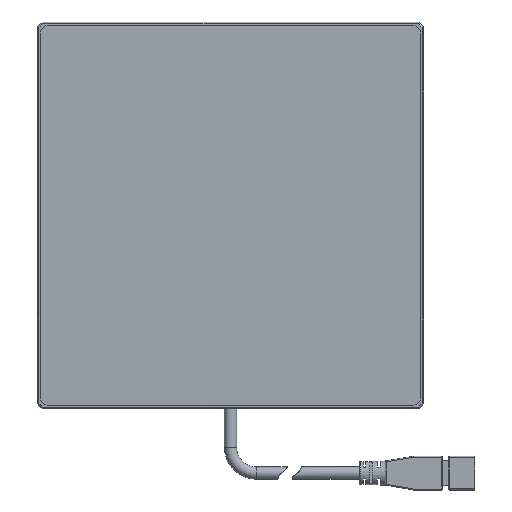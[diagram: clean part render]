
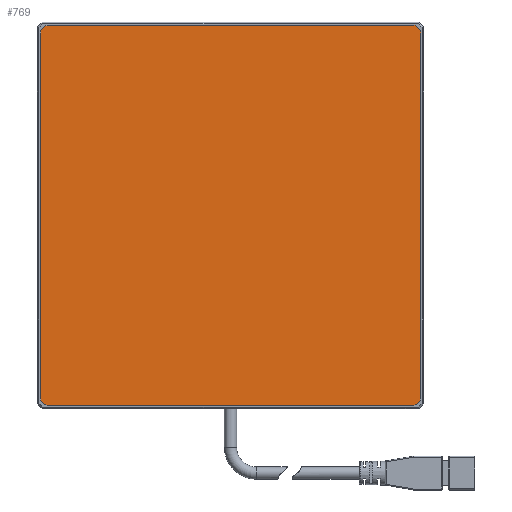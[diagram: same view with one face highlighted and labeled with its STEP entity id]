
A CAD part, front view. The second image highlights one B-rep face of the part: STEP entity #769.
In plain terms, the highlighted planar face has unit normal (0, -1, 0).
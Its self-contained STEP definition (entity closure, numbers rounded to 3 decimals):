
#65=CARTESIAN_POINT('',(56.5,0.5,56.5));
#66=DIRECTION('',(0.,-1.,0.));
#67=DIRECTION('',(1.,0.,0.));
#68=AXIS2_PLACEMENT_3D('',#65,#66,#67);
#70=DIRECTION('',(0.,0.,1.));
#71=VECTOR('',#70,113.);
#72=CARTESIAN_POINT('',(59.,0.5,-56.5));
#73=LINE('',#72,#71);
#74=CARTESIAN_POINT('',(56.5,0.5,-56.5));
#75=DIRECTION('',(0.,-1.,0.));
#76=DIRECTION('',(0.,0.,-1.));
#77=AXIS2_PLACEMENT_3D('',#74,#75,#76);
#79=DIRECTION('',(1.,0.,0.));
#80=VECTOR('',#79,113.);
#81=CARTESIAN_POINT('',(-56.5,0.5,-59.));
#82=LINE('',#81,#80);
#83=CARTESIAN_POINT('',(-56.5,0.5,-56.5));
#84=DIRECTION('',(0.,-1.,0.));
#85=DIRECTION('',(-1.,0.,0.));
#86=AXIS2_PLACEMENT_3D('',#83,#84,#85);
#88=DIRECTION('',(0.,0.,-1.));
#89=VECTOR('',#88,113.);
#90=CARTESIAN_POINT('',(-59.,0.5,56.5));
#91=LINE('',#90,#89);
#92=CARTESIAN_POINT('',(-56.5,0.5,56.5));
#93=DIRECTION('',(0.,-1.,0.));
#94=DIRECTION('',(0.,0.,1.));
#95=AXIS2_PLACEMENT_3D('',#92,#93,#94);
#97=DIRECTION('',(-1.,0.,0.));
#98=VECTOR('',#97,113.);
#99=CARTESIAN_POINT('',(56.5,0.5,59.));
#100=LINE('',#99,#98);
#645=CARTESIAN_POINT('',(59.,0.5,56.5));
#646=CARTESIAN_POINT('',(56.5,0.5,59.));
#647=VERTEX_POINT('',#645);
#648=VERTEX_POINT('',#646);
#653=CARTESIAN_POINT('',(56.5,0.5,-59.));
#654=CARTESIAN_POINT('',(59.,0.5,-56.5));
#655=VERTEX_POINT('',#653);
#656=VERTEX_POINT('',#654);
#661=CARTESIAN_POINT('',(-59.,0.5,-56.5));
#662=CARTESIAN_POINT('',(-56.5,0.5,-59.));
#663=VERTEX_POINT('',#661);
#664=VERTEX_POINT('',#662);
#669=CARTESIAN_POINT('',(-56.5,0.5,59.));
#670=CARTESIAN_POINT('',(-59.,0.5,56.5));
#671=VERTEX_POINT('',#669);
#672=VERTEX_POINT('',#670);
#748=CARTESIAN_POINT('',(0.,0.5,0.));
#749=DIRECTION('',(0.,-1.,0.));
#750=DIRECTION('',(0.,0.,-1.));
#751=AXIS2_PLACEMENT_3D('',#748,#749,#750);
#752=PLANE('',#751);
#754=ORIENTED_EDGE('',*,*,#753,.F.);
#756=ORIENTED_EDGE('',*,*,#755,.F.);
#757=ORIENTED_EDGE('',*,*,#739,.F.);
#758=ORIENTED_EDGE('',*,*,#729,.F.);
#760=ORIENTED_EDGE('',*,*,#759,.F.);
#762=ORIENTED_EDGE('',*,*,#761,.F.);
#764=ORIENTED_EDGE('',*,*,#763,.F.);
#766=ORIENTED_EDGE('',*,*,#765,.F.);
#767=EDGE_LOOP('',(#754,#756,#757,#758,#760,#762,#764,#766));
#768=FACE_OUTER_BOUND('',#767,.F.);
#769=ADVANCED_FACE('',(#768),#752,.T.);
#69=CIRCLE('',#68,2.5);
#78=CIRCLE('',#77,2.5);
#87=CIRCLE('',#86,2.5);
#96=CIRCLE('',#95,2.5);
#729=EDGE_CURVE('',#664,#655,#82,.T.);
#739=EDGE_CURVE('',#655,#656,#78,.T.);
#753=EDGE_CURVE('',#647,#648,#69,.T.);
#755=EDGE_CURVE('',#656,#647,#73,.T.);
#759=EDGE_CURVE('',#663,#664,#87,.T.);
#761=EDGE_CURVE('',#672,#663,#91,.T.);
#763=EDGE_CURVE('',#671,#672,#96,.T.);
#765=EDGE_CURVE('',#648,#671,#100,.T.);
